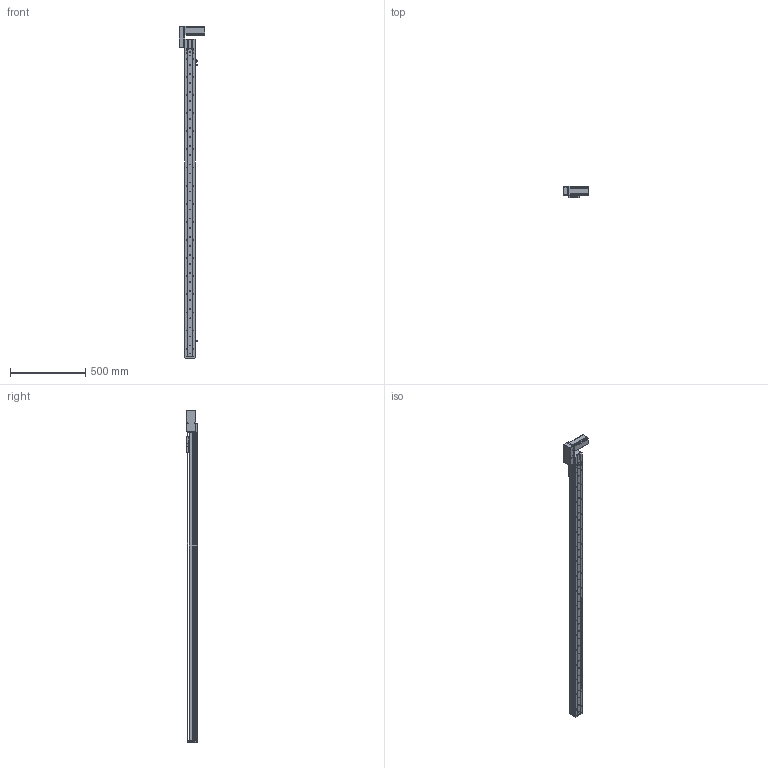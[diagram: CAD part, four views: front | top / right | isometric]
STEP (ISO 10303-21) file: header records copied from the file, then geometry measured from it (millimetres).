
FILE_DESCRIPTION (( 'STEP AP214' ), '1' );
FILE_NAME ('KSD68BS-S1850-MRB-CM.STEP', '2019-11-06T08:05:09', ( '微软用户' ), ( '微软中国' ), 'SwSTEP 2.0', 'SolidWorks 2014', '' );
FILE_SCHEMA (( 'AUTOMOTIVE_DESIGN' ));
Length unit declared in the file: millimetre
Products named in the file (11): 悵誘欶奻狟殏; 68宽马达安装板连板上折同步带; 68宽单导轨半封闭同步带主动轮座右; 68单导轨同步带半封闭端板; KSD68BS 1850俴最裔啣圉猾敕; 覜茼え68遵圉猾敕; KSD68BS半封闭同步带传动导轨座; U倰嫖萇EEㄜSX672; 台达ECMA－C20604AS伺服电机（400W); KSD68BS 1850俴最菁啣圉猾敕; KSD68BS-S1850-MRB-CM
Assembly tree (12 placements, depth 2):
  KSD68BS-S1850-MRB-CM
    KSD68BS 1850俴最菁啣圉猾敕
    台达ECMA－C20604AS伺服电机（400W)
    U倰嫖萇EEㄜSX672  x3
    KSD68BS半封闭同步带传动导轨座
    覜茼え68遵圉猾敕
    KSD68BS 1850俴最裔啣圉猾敕
    68单导轨同步带半封闭端板
    68宽单导轨半封闭同步带主动轮座右
    68宽马达安装板连板上折同步带
    悵誘欶奻狟殏
Bounding box: 167.2 x 70.5 x 2199.5 mm (x, y, z)
Volume: 3442318.1 mm3; surface area: 1295263.1 mm2
Topology: 13 solids, 13 shells, 1674 faces, 4934 edges, 3218 vertices
Faces by surface type: cylinder 896, plane 695, cone 83
Entity records: 66513 total; most frequent: CARTESIAN_POINT 13618, ORIENTED_EDGE 8620, DIRECTION 8276, EDGE_CURVE 4310, AXIS2_PLACEMENT_3D 2988, VERTEX_POINT 2842, LINE 2300, VECTOR 2300
